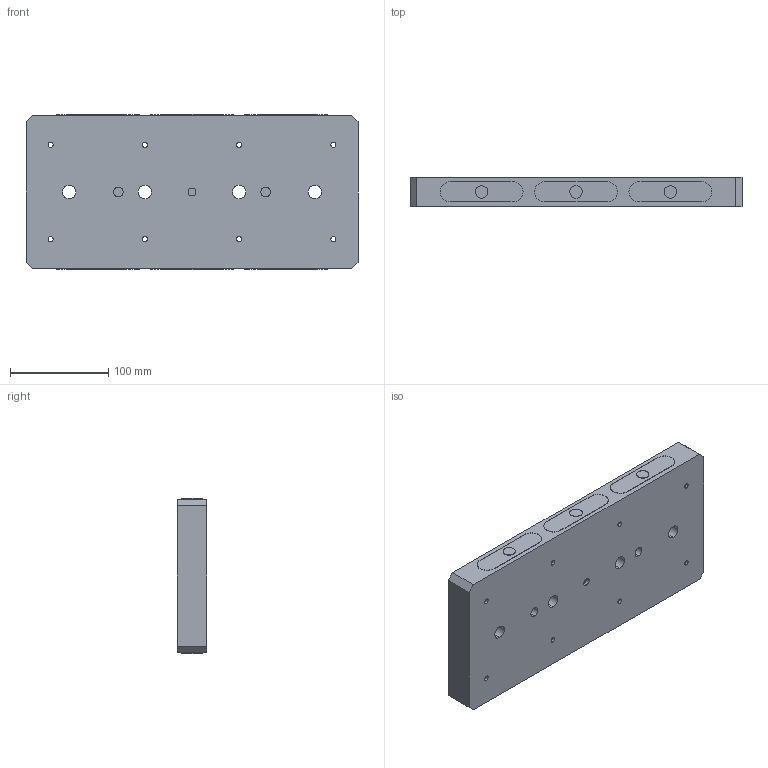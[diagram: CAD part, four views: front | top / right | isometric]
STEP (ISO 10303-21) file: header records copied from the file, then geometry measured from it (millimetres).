
FILE_DESCRIPTION (( 'STEP AP214' ), '1' );
FILE_NAME ('D_RL96A-3613S1.STEP', '2020-03-11T17:38:14', ( '' ), ( '' ), 'SwSTEP 2.0', 'SolidWorks 2018', '' );
FILE_SCHEMA (( 'AUTOMOTIVE_DESIGN' ));
Length unit declared in the file: inch
Products named in the file (1): D_RL96A-3613S1
Bounding box: 338 x 30 x 158 mm (x, y, z)
Volume: 1167135.4 mm3; surface area: 238502.4 mm2
Topology: 1 solids, 1 shells, 413 faces, 1038 edges, 682 vertices
Faces by surface type: cylinder 258, plane 143, cone 12
Entity records: 15702 total; most frequent: CARTESIAN_POINT 3634, DIRECTION 2304, ORIENTED_EDGE 2052, EDGE_CURVE 1026, AXIS2_PLACEMENT_3D 942, VERTEX_POINT 682, EDGE_LOOP 528, CIRCLE 528
